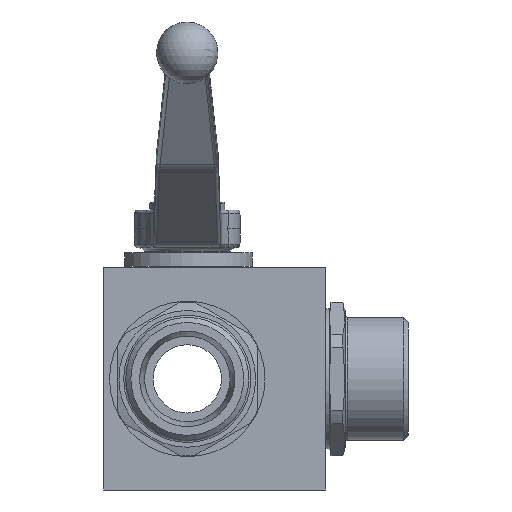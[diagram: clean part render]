
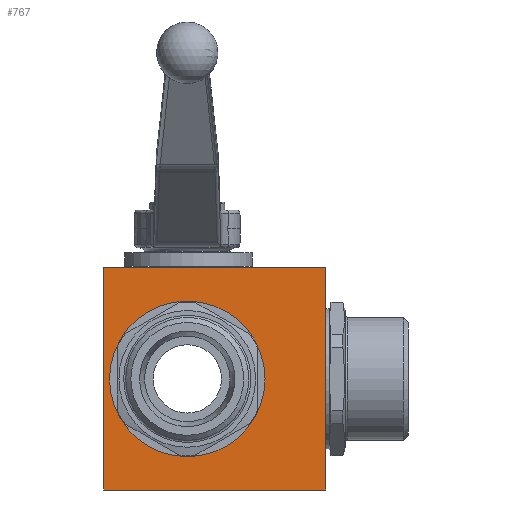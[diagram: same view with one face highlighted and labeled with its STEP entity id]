
A CAD part, front view. The second image highlights one B-rep face of the part: STEP entity #767.
In plain terms, the highlighted planar face has unit normal (0, -1, 0).
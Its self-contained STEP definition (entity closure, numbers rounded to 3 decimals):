
#767 = ADVANCED_FACE( '', ( #1651, #1652 ), #1653, .T. );
#1651 = FACE_BOUND( '', #3094, .T. );
#1652 = FACE_OUTER_BOUND( '', #3095, .T. );
#1653 = PLANE( '', #3096 );
#3094 = EDGE_LOOP( '', ( #5238 ) );
#3095 = EDGE_LOOP( '', ( #5239, #5240, #5241, #5242 ) );
#3096 = AXIS2_PLACEMENT_3D( '', #5243, #5244, #5245 );
#5238 = ORIENTED_EDGE( '', *, *, #7718, .F. );
#5239 = ORIENTED_EDGE( '', *, *, #7645, .T. );
#5240 = ORIENTED_EDGE( '', *, *, #7719, .T. );
#5241 = ORIENTED_EDGE( '', *, *, #7720, .T. );
#5242 = ORIENTED_EDGE( '', *, *, #7498, .T. );
#5243 = CARTESIAN_POINT( '', ( -24.5, -31.1, -32.5 ) );
#5244 = DIRECTION( '', ( 0., -1., 0. ) );
#5245 = DIRECTION( '', ( 0., 0., -1. ) );
#7498 = EDGE_CURVE( '', #8807, #8805, #8808, .T. );
#7645 = EDGE_CURVE( '', #8805, #9048, #9050, .T. );
#7718 = EDGE_CURVE( '', #9163, #9163, #9164, .T. );
#7719 = EDGE_CURVE( '', #9048, #9165, #9166, .T. );
#7720 = EDGE_CURVE( '', #9165, #8807, #9167, .T. );
#8805 = VERTEX_POINT( '', #11003 );
#8807 = VERTEX_POINT( '', #11006 );
#8808 = LINE( '', #11007, #11008 );
#9048 = VERTEX_POINT( '', #11832 );
#9050 = LINE( '', #11835, #11836 );
#9163 = VERTEX_POINT( '', #12041 );
#9164 = CIRCLE( '', #12042, 22.75 );
#9165 = VERTEX_POINT( '', #12043 );
#9166 = LINE( '', #12044, #12045 );
#9167 = LINE( '', #12046, #12047 );
#11003 = CARTESIAN_POINT( '', ( -24.5, -31.1, 32.5 ) );
#11006 = CARTESIAN_POINT( '', ( 40.5, -31.1, 32.5 ) );
#11007 = CARTESIAN_POINT( '', ( 40.5, -31.1, 32.5 ) );
#11008 = VECTOR( '', #14497, 1000. );
#11832 = CARTESIAN_POINT( '', ( -24.5, -31.1, -32.5 ) );
#11835 = CARTESIAN_POINT( '', ( -24.5, -31.1, 32.5 ) );
#11836 = VECTOR( '', #14657, 1000. );
#12041 = CARTESIAN_POINT( '', ( 22.75, -31.1, 0. ) );
#12042 = AXIS2_PLACEMENT_3D( '', #14749, #14750, #14751 );
#12043 = CARTESIAN_POINT( '', ( 40.5, -31.1, -32.5 ) );
#12044 = CARTESIAN_POINT( '', ( -24.5, -31.1, -32.5 ) );
#12045 = VECTOR( '', #14752, 1000. );
#12046 = CARTESIAN_POINT( '', ( 40.5, -31.1, -32.5 ) );
#12047 = VECTOR( '', #14753, 1000. );
#14497 = DIRECTION( '', ( -1., 0., 0. ) );
#14657 = DIRECTION( '', ( 0., 0., -1. ) );
#14749 = CARTESIAN_POINT( '', ( 0., -31.1, 0. ) );
#14750 = DIRECTION( '', ( 0., -1., 0. ) );
#14751 = DIRECTION( '', ( 1., 0., 0. ) );
#14752 = DIRECTION( '', ( 1., 0., 0. ) );
#14753 = DIRECTION( '', ( 0., 0., 1. ) );
